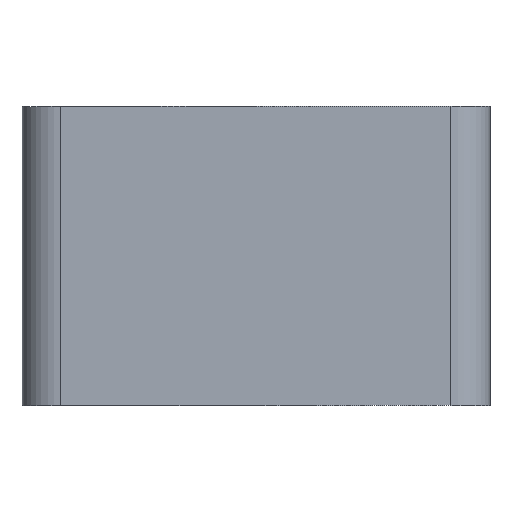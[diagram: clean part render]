
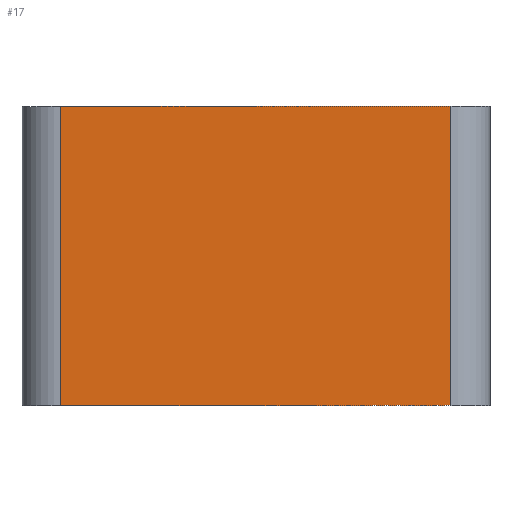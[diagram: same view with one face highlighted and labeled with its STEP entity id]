
A CAD part, left-side view. The second image highlights one B-rep face of the part: STEP entity #17.
In plain terms, the highlighted planar face has unit normal (-1, 0, 0).
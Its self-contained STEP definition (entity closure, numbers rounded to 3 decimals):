
#17 = ADVANCED_FACE('',(#18),#32,.F.);
#18 = FACE_BOUND('',#19,.F.);
#19 = EDGE_LOOP('',(#20,#55,#83,#111));
#20 = ORIENTED_EDGE('',*,*,#21,.F.);
#21 = EDGE_CURVE('',#22,#24,#26,.T.);
#22 = VERTEX_POINT('',#23);
#23 = CARTESIAN_POINT('',(-75.,-60.,46.));
#24 = VERTEX_POINT('',#25);
#25 = CARTESIAN_POINT('',(-75.,60.,46.));
#26 = SURFACE_CURVE('',#27,(#31,#43),.PCURVE_S1.);
#27 = LINE('',#28,#29);
#28 = CARTESIAN_POINT('',(-75.,-72.,46.));
#29 = VECTOR('',#30,1.);
#30 = DIRECTION('',(0.,1.,0.));
#31 = PCURVE('',#32,#37);
#32 = PLANE('',#33);
#33 = AXIS2_PLACEMENT_3D('',#34,#35,#36);
#34 = CARTESIAN_POINT('',(-75.,-72.,-46.));
#35 = DIRECTION('',(1.,0.,0.));
#36 = DIRECTION('',(0.,0.,1.));
#37 = DEFINITIONAL_REPRESENTATION('',(#38),#42);
#38 = LINE('',#39,#40);
#39 = CARTESIAN_POINT('',(92.,0.));
#40 = VECTOR('',#41,1.);
#41 = DIRECTION('',(0.,-1.));
#42 = ( GEOMETRIC_REPRESENTATION_CONTEXT(2) 
PARAMETRIC_REPRESENTATION_CONTEXT() REPRESENTATION_CONTEXT('2D SPACE',''
  ) );
#43 = PCURVE('',#44,#49);
#44 = PLANE('',#45);
#45 = AXIS2_PLACEMENT_3D('',#46,#47,#48);
#46 = CARTESIAN_POINT('',(-75.,-72.,46.));
#47 = DIRECTION('',(0.,0.,1.));
#48 = DIRECTION('',(1.,0.,0.));
#49 = DEFINITIONAL_REPRESENTATION('',(#50),#54);
#50 = LINE('',#51,#52);
#51 = CARTESIAN_POINT('',(0.,0.));
#52 = VECTOR('',#53,1.);
#53 = DIRECTION('',(0.,1.));
#54 = ( GEOMETRIC_REPRESENTATION_CONTEXT(2) 
PARAMETRIC_REPRESENTATION_CONTEXT() REPRESENTATION_CONTEXT('2D SPACE',''
  ) );
#55 = ORIENTED_EDGE('',*,*,#56,.F.);
#56 = EDGE_CURVE('',#57,#22,#59,.T.);
#57 = VERTEX_POINT('',#58);
#58 = CARTESIAN_POINT('',(-75.,-60.,-46.));
#59 = SURFACE_CURVE('',#60,(#64,#71),.PCURVE_S1.);
#60 = LINE('',#61,#62);
#61 = CARTESIAN_POINT('',(-75.,-60.,-46.));
#62 = VECTOR('',#63,1.);
#63 = DIRECTION('',(0.,0.,1.));
#64 = PCURVE('',#32,#65);
#65 = DEFINITIONAL_REPRESENTATION('',(#66),#70);
#66 = LINE('',#67,#68);
#67 = CARTESIAN_POINT('',(0.,-12.));
#68 = VECTOR('',#69,1.);
#69 = DIRECTION('',(1.,0.));
#70 = ( GEOMETRIC_REPRESENTATION_CONTEXT(2) 
PARAMETRIC_REPRESENTATION_CONTEXT() REPRESENTATION_CONTEXT('2D SPACE',''
  ) );
#71 = PCURVE('',#72,#77);
#72 = CYLINDRICAL_SURFACE('',#73,12.);
#73 = AXIS2_PLACEMENT_3D('',#74,#75,#76);
#74 = CARTESIAN_POINT('',(-63.,-60.,-46.));
#75 = DIRECTION('',(0.,0.,1.));
#76 = DIRECTION('',(-1.,-0.,0.));
#77 = DEFINITIONAL_REPRESENTATION('',(#78),#82);
#78 = LINE('',#79,#80);
#79 = CARTESIAN_POINT('',(0.,0.));
#80 = VECTOR('',#81,1.);
#81 = DIRECTION('',(0.,1.));
#82 = ( GEOMETRIC_REPRESENTATION_CONTEXT(2) 
PARAMETRIC_REPRESENTATION_CONTEXT() REPRESENTATION_CONTEXT('2D SPACE',''
  ) );
#83 = ORIENTED_EDGE('',*,*,#84,.T.);
#84 = EDGE_CURVE('',#57,#85,#87,.T.);
#85 = VERTEX_POINT('',#86);
#86 = CARTESIAN_POINT('',(-75.,60.,-46.));
#87 = SURFACE_CURVE('',#88,(#92,#99),.PCURVE_S1.);
#88 = LINE('',#89,#90);
#89 = CARTESIAN_POINT('',(-75.,-72.,-46.));
#90 = VECTOR('',#91,1.);
#91 = DIRECTION('',(0.,1.,0.));
#92 = PCURVE('',#32,#93);
#93 = DEFINITIONAL_REPRESENTATION('',(#94),#98);
#94 = LINE('',#95,#96);
#95 = CARTESIAN_POINT('',(0.,0.));
#96 = VECTOR('',#97,1.);
#97 = DIRECTION('',(0.,-1.));
#98 = ( GEOMETRIC_REPRESENTATION_CONTEXT(2) 
PARAMETRIC_REPRESENTATION_CONTEXT() REPRESENTATION_CONTEXT('2D SPACE',''
  ) );
#99 = PCURVE('',#100,#105);
#100 = PLANE('',#101);
#101 = AXIS2_PLACEMENT_3D('',#102,#103,#104);
#102 = CARTESIAN_POINT('',(-75.,-72.,-46.));
#103 = DIRECTION('',(0.,0.,1.));
#104 = DIRECTION('',(1.,0.,0.));
#105 = DEFINITIONAL_REPRESENTATION('',(#106),#110);
#106 = LINE('',#107,#108);
#107 = CARTESIAN_POINT('',(0.,0.));
#108 = VECTOR('',#109,1.);
#109 = DIRECTION('',(0.,1.));
#110 = ( GEOMETRIC_REPRESENTATION_CONTEXT(2) 
PARAMETRIC_REPRESENTATION_CONTEXT() REPRESENTATION_CONTEXT('2D SPACE',''
  ) );
#111 = ORIENTED_EDGE('',*,*,#112,.T.);
#112 = EDGE_CURVE('',#85,#24,#113,.T.);
#113 = SURFACE_CURVE('',#114,(#118,#125),.PCURVE_S1.);
#114 = LINE('',#115,#116);
#115 = CARTESIAN_POINT('',(-75.,60.,-46.));
#116 = VECTOR('',#117,1.);
#117 = DIRECTION('',(0.,0.,1.));
#118 = PCURVE('',#32,#119);
#119 = DEFINITIONAL_REPRESENTATION('',(#120),#124);
#120 = LINE('',#121,#122);
#121 = CARTESIAN_POINT('',(0.,-132.));
#122 = VECTOR('',#123,1.);
#123 = DIRECTION('',(1.,0.));
#124 = ( GEOMETRIC_REPRESENTATION_CONTEXT(2) 
PARAMETRIC_REPRESENTATION_CONTEXT() REPRESENTATION_CONTEXT('2D SPACE',''
  ) );
#125 = PCURVE('',#126,#131);
#126 = CYLINDRICAL_SURFACE('',#127,12.);
#127 = AXIS2_PLACEMENT_3D('',#128,#129,#130);
#128 = CARTESIAN_POINT('',(-63.,60.,-46.));
#129 = DIRECTION('',(0.,0.,1.));
#130 = DIRECTION('',(-1.,-0.,0.));
#131 = DEFINITIONAL_REPRESENTATION('',(#132),#136);
#132 = LINE('',#133,#134);
#133 = CARTESIAN_POINT('',(-0.,0.));
#134 = VECTOR('',#135,1.);
#135 = DIRECTION('',(-0.,1.));
#136 = ( GEOMETRIC_REPRESENTATION_CONTEXT(2) 
PARAMETRIC_REPRESENTATION_CONTEXT() REPRESENTATION_CONTEXT('2D SPACE',''
  ) );
